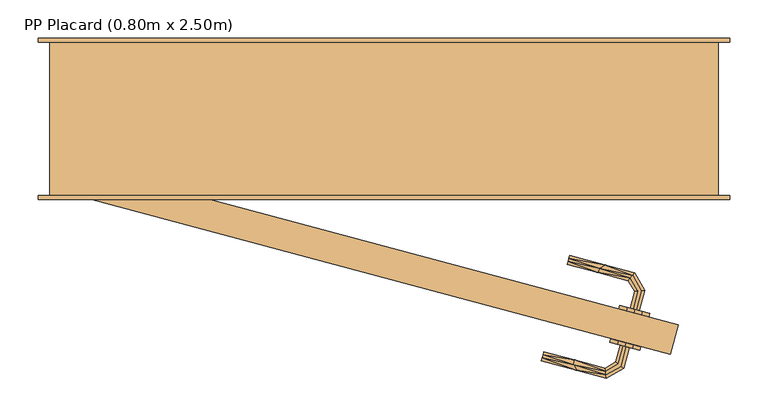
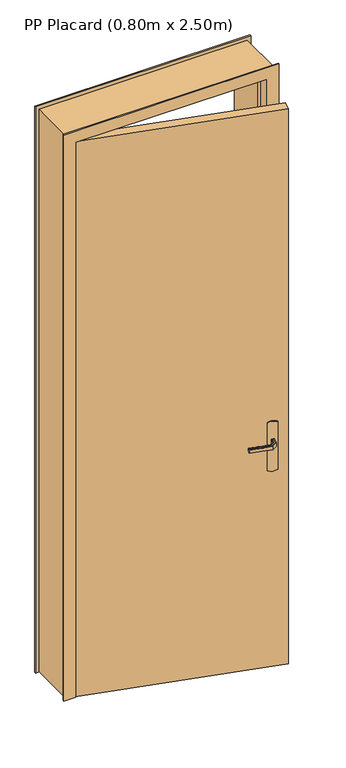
"""IFC4 building model written with IfcOpenShell, lengths in millimetres: door geometry, PP Placard (0.80m x 2.50m)."""

from ifc_helpers import new_model, si_unit, frame, origin, origin_with_axes, place, context, project, spatial, polyline, outline, extrude, faceted_brep, source, transform, mapped, element, save


def pp_placard_0_80m_x_2_50m_ba0af131(model_context):
    return source(origin(), model_context, "Body", "SolidModel", [
        extrude(outline(polyline([(888.0934228, -168.418203), (877.740661, -207.0552361), (105.0, 0.0), (115.3527618, 38.6370331), (888.0934228, -168.418203)])), origin_with_axes(), (0.0, 0.0, 1.0), 2450.0),
        faceted_brep([(829.4756802, -147.5352453, 992.2195592), (833.3882568, -148.5836171, 992.2195592), (837.2275234, -149.6123455, 993.0), (837.2275234, -149.6123455, 1007.0), (833.3882568, -148.5836171, 1007.7804408), (829.4756802, -147.5352453, 1007.7804408), (825.6364135, -146.5065169, 1007.0), (825.6364135, -146.5065169, 993.0), (831.4560127, -124.7874772, 1007.0), (831.4560127, -124.7874772, 993.0), (835.7213926, -124.2259293, 1007.7804408), (840.068219, -123.6536587, 1007.7804408), (828.6227111, -103.8294575, 1007.7804408), (825.9536971, -107.3077843, 1007.7804408), (844.3335989, -123.0921108, 1007.0), (844.3335989, -123.0921108, 993.0), (840.068219, -123.6536587, 992.2195592), (835.7213926, -124.2259293, 992.2195592), (825.9536971, -107.3077843, 992.2195592), (828.6227111, -103.8294575, 992.2195592), (823.3346923, -110.7209377, 1007.0), (823.3346923, -110.7209377, 993.0), (831.2417158, -100.4163041, 1007.0), (831.2417158, -100.4163041, 993.0), (744.6160994, -85.5134407, 1007.7804408), (745.6644711, -81.6008641, 1007.7804408), (746.6931995, -77.7615974, 1007.0), (746.6931995, -77.7615974, 993.0), (745.6644711, -81.6008641, 992.2195592), (744.6160994, -85.5134407, 992.2195592), (743.587371, -89.3527074, 993.0), (743.587371, -89.3527074, 1007.0), (783.4610316, -100.0368225, 1007.0), (783.4610432, -100.0368256, 993.0), (785.8090841, -94.4543242, 1007.8786868), (792.671827, -90.0815336, 1007.0), (792.6718284, -90.0815339, 993.0), (785.8090838, -94.4543242, 992.1213132)], [[[0, 1, 2, 3, 4, 5, 6, 7]], [[8, 9, 7, 6]], [[5, 10, 8, 6]], [[5, 4, 11, 12, 13, 10]], [[3, 14, 11, 4]], [[14, 3, 2, 15]], [[2, 1, 16, 15]], [[1, 0, 17, 18, 19, 16]], [[0, 7, 9, 17]], [[20, 21, 9, 8]], [[8, 10, 13, 20]], [[14, 22, 12, 11]], [[23, 22, 14, 15]], [[15, 16, 19, 23]], [[17, 9, 21, 18]], [[24, 25, 26, 27, 28, 29, 30, 31]], [[21, 20, 32, 31, 30, 33]], [[34, 24, 32]], [[25, 34, 35]], [[13, 32, 20]], [[24, 31, 32]], [[25, 35, 26]], [[35, 12, 22]], [[34, 12, 35]], [[34, 13, 12]], [[34, 32, 13]], [[24, 34, 25]], [[22, 23, 36, 27, 26, 35]], [[37, 28, 36]], [[36, 28, 27]], [[36, 23, 19]], [[18, 33, 37]], [[33, 18, 21]], [[30, 29, 33]], [[37, 29, 28]], [[37, 33, 29]], [[37, 36, 19]], [[18, 37, 19]]]),
        extrude(outline(polyline([(0.0, 0.0), (206.2910989, 39.2935427), (212.0216556, 30.5643916), (215.2976776, 20.649502), (215.8959097, 10.2245572), (213.7755833, 0.0), (7.4844843, -39.2935427), (1.7539277, -30.5643917), (-1.5220943, -20.6495022), (-2.1203264, -10.2245574), (0.0, 0.0)])), frame((837.8095328, -201.5321034, 870.0), z_axis=(0.2588190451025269, 0.9659258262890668, 0.0), x_axis=(-0.18073641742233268, 0.048428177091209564, 0.9823385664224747)), (0.0, 0.0, 1.0), 5.0),
        extrude(outline(polyline([(0.0, 0.0), (206.2910989, 39.2935427), (212.0216555, 30.5643917), (215.2976776, 20.6495021), (215.8959097, 10.2245573), (213.7755833, 0.0), (7.4844843, -39.2935427), (1.7539277, -30.5643916), (-1.5220943, -20.6495021), (-2.1203264, -10.2245573), (0.0, 0.0)])), frame((849.4563898, -158.0654412, 870.0), z_axis=(0.2588190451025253, 0.9659258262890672, 0.0), x_axis=(-0.18073641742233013, 0.04842817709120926, 0.9823385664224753)), (0.0, 0.0, 1.0), 5.0),
        faceted_brep([(816.5347279, -195.8315366, 1007.7804408), (820.4473045, -196.8799084, 1007.7804408), (824.2865712, -197.9086368, 1007.0), (824.2865712, -197.9086368, 993.0), (820.4473045, -196.8799084, 992.2195592), (816.5347279, -195.8315366, 992.2195592), (812.6954613, -194.8028082, 993.0), (812.6954613, -194.8028082, 1007.0), (813.7168251, -221.9983994, 1007.7804408), (817.1299785, -224.6174042, 1007.0), (810.2384983, -219.3293854, 1007.7804408), (793.4887664, -228.9998477, 1007.7804408), (794.0610369, -233.346674, 1007.7804408), (806.8253449, -216.7103807, 1007.0), (806.8253449, -216.7103807, 993.0), (810.2384983, -219.3293854, 992.2195592), (813.7168251, -221.9983994, 992.2195592), (794.0610369, -233.346674, 992.2195592), (793.4887664, -228.9998477, 992.2195592), (817.1299785, -224.6174042, 993.0), (794.6225849, -237.612054, 1007.0), (792.9272185, -224.7344678, 1007.0), (792.9272185, -224.7344678, 993.0), (794.6225849, -237.612054, 993.0), (709.9674636, -214.9287826, 1007.0), (710.996192, -211.0895159, 1007.7804408), (712.0445637, -207.1769394, 1007.7804408), (713.0732921, -203.3376727, 1007.0), (713.0732921, -203.3376727, 993.0), (712.0445637, -207.1769394, 992.2195592), (710.996192, -211.0895159, 992.2195592), (709.9674636, -214.9287826, 993.0), (752.2424792, -220.0446818, 1007.8786868), (756.052696, -227.2772834, 1007.0), (753.0002553, -214.0360702, 1007.0), (753.0002553, -214.0360702, 993.0), (752.2424793, -220.0446819, 992.1213132), (756.0527033, -227.2772854, 993.0)], [[[0, 1, 2, 3, 4, 5, 6, 7]], [[2, 1, 8, 9]], [[1, 0, 10, 11, 12, 8]], [[0, 7, 13, 10]], [[14, 13, 7, 6]], [[5, 15, 14, 6]], [[5, 4, 16, 17, 18, 15]], [[3, 19, 16, 4]], [[9, 19, 3, 2]], [[9, 8, 12, 20]], [[10, 13, 21, 11]], [[22, 21, 13, 14]], [[14, 15, 18, 22]], [[16, 19, 23, 17]], [[20, 23, 19, 9]], [[24, 25, 26, 27, 28, 29, 30, 31]], [[32, 25, 33]], [[33, 25, 24]], [[33, 20, 12]], [[11, 34, 32]], [[34, 11, 21]], [[27, 26, 34]], [[32, 26, 25]], [[32, 34, 26]], [[32, 33, 12]], [[11, 32, 12]], [[21, 22, 35, 28, 27, 34]], [[36, 29, 35]], [[30, 36, 37]], [[18, 35, 22]], [[29, 28, 35]], [[30, 37, 31]], [[37, 17, 23]], [[36, 17, 37]], [[36, 18, 17]], [[36, 35, 18]], [[29, 36, 30]], [[23, 20, 33, 24, 31, 37]]]),
        faceted_brep([(940.0, 200.0, 0.0), (940.0, 0.0, 0.0), (955.0, 0.0, 0.0), (955.0, -5.0, 0.0), (905.0, -5.0, 0.0), (905.0, 40.0, 0.0), (890.0, 40.0, 0.0), (890.0, 205.0, 0.0), (955.0, 205.0, 0.0), (955.0, 200.0, 0.0), (940.0, 200.0, 2485.0), (940.0, 0.0, 2485.0), (955.0, 200.0, 2500.0), (55.0, 200.0, 2500.0), (55.0, 200.0, 0.0), (70.0, 200.0, 0.0), (70.0, 200.0, 2485.0), (890.0, 40.0, 2435.0), (890.0, 205.0, 2435.0), (905.0, 40.0, 2450.0), (105.0, 40.0, 2450.0), (105.0, 40.0, 0.0), (120.0, 40.0, 0.0), (120.0, 40.0, 2435.0), (70.0, 0.0, 0.0), (70.0, 0.0, 2485.0), (55.0, 205.0, 0.0), (120.0, 205.0, 0.0), (105.0, -5.0, 0.0), (55.0, -5.0, 0.0), (55.0, 0.0, 0.0), (120.0, 205.0, 2435.0), (905.0, -5.0, 2450.0), (955.0, -5.0, 2500.0), (55.0, -5.0, 2500.0), (105.0, -5.0, 2450.0), (955.0, 0.0, 2500.0), (55.0, 0.0, 2500.0), (955.0, 205.0, 2500.0), (55.0, 205.0, 2500.0)], [[[0, 1, 2, 3, 4, 5, 6, 7, 8, 9]], [[0, 10, 11, 1]], [[9, 12, 13, 14, 15, 16, 10, 0]], [[7, 6, 17, 18]], [[5, 19, 20, 21, 22, 23, 17, 6]], [[16, 15, 24, 25]], [[15, 14, 26, 27, 22, 21, 28, 29, 30, 24]], [[23, 22, 27, 31]], [[10, 16, 25, 11]], [[17, 23, 31, 18]], [[5, 4, 32, 19]], [[3, 33, 34, 29, 28, 35, 32, 4]], [[2, 36, 33, 3]], [[1, 11, 25, 24, 30, 37, 36, 2]], [[8, 38, 12, 9]], [[7, 18, 31, 27, 26, 39, 38, 8]], [[35, 28, 21, 20]], [[37, 30, 29, 34]], [[39, 26, 14, 13]], [[32, 35, 20, 19]], [[36, 37, 34, 33]], [[38, 39, 13, 12]]]),
    ])


if __name__ == "__main__":
    model = new_model("IFC4")
    model_context = context("Model", 3, world=origin())
    ifc_project = project(units=[si_unit("LENGTHUNIT", "METRE", prefix="MILLI")], contexts=[model_context])
    site = spatial("IfcSite", under=ifc_project)
    building = spatial("IfcBuilding", under=site)
    placement = place(None, origin())
    pp_placard_0_80m_x_2_50m_shape = pp_placard_0_80m_x_2_50m_ba0af131(model_context)
    element("IfcDoor", 1, ObjectType="PP Placard (0.80m x 2.50m)", at=placement, inside=building, context=model_context, shape_type="MappedRepresentation", body=[
        mapped(pp_placard_0_80m_x_2_50m_shape, transform((0.0, 0.0, 0.0), x_axis=(1.0, 0.0, 0.0), y_axis=(0.0, 1.0, 0.0), z_axis=(0.0, 0.0, 1.0))),
    ])
    save(model, "model.ifc")
